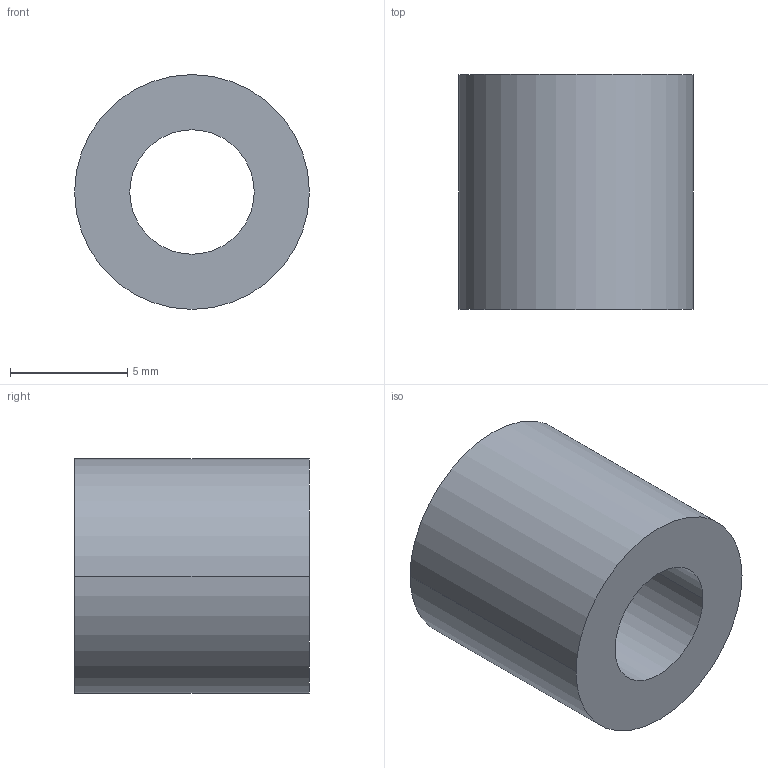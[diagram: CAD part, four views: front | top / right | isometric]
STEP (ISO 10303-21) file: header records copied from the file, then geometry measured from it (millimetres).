
FILE_DESCRIPTION (( 'STEP AP203' ), '1' );
FILE_NAME ('30800.WPP10D5.3.step', '2019-01-23T22:22:48', ( '' ), ( '' ), 'SwSTEP 2.0', 'SolidWorks 2017', '' );
FILE_SCHEMA (( 'CONFIG_CONTROL_DESIGN' ));
Length unit declared in the file: millimetre
Products named in the file (1): 30800.WPP10D5.3
Bounding box: 10 x 10 x 10 mm (x, y, z)
Volume: 555.7 mm3; surface area: 583.9 mm2
Topology: 1 solids, 1 shells, 8 faces, 16 edges, 10 vertices
Faces by surface type: cylinder 4, torus 2, plane 2
Entity records: 297 total; most frequent: DIRECTION 46, CARTESIAN_POINT 35, ORIENTED_EDGE 32, AXIS2_PLACEMENT_3D 21, EDGE_CURVE 16, CIRCLE 12, VERTEX_POINT 10, EDGE_LOOP 10
